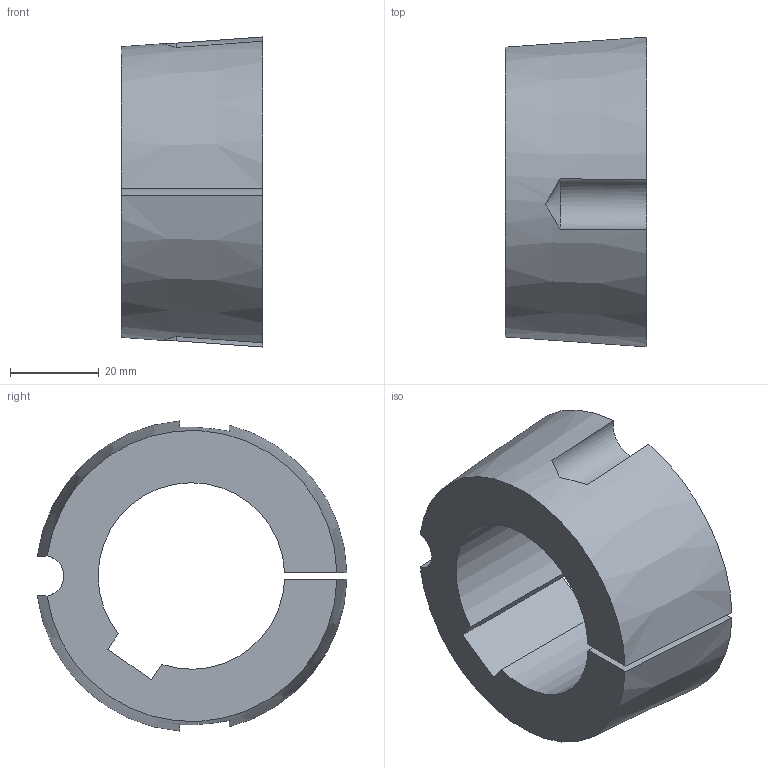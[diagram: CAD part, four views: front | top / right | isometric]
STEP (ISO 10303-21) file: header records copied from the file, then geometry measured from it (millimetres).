
FILE_DESCRIPTION( ( 'STEP AP203' ), '1' );
FILE_NAME( 'D:/export/antriebselemente/spannbuchsen_und_spannsaetze/taper-spannbuchsen_1008_bis_5050/taper-spannbuchsen_62250542Isometric_130.stp', '2018-12-11T11:11:14', ( '' ), ( '' ), ' ', 'PARTsolutions', ' ' );
FILE_SCHEMA( ( 'CONFIG_CONTROL_DESIGN' ) );
Length unit declared in the file: millimetre
Products named in the file (1): _taper-spannbuchsen_62250542
Bounding box: 31.8 x 69.72 x 69.81 mm (x, y, z)
Volume: 65134.5 mm3; surface area: 16632.4 mm2
Topology: 1 solids, 1 shells, 16 faces, 42 edges, 28 vertices
Faces by surface type: plane 7, cylinder 5, cone 4
Entity records: 618 total; most frequent: CARTESIAN_POINT 179, ORIENTED_EDGE 84, DIRECTION 82, EDGE_CURVE 42, AXIS2_PLACEMENT_3D 33, VERTEX_POINT 28, ADVANCED_FACE 16, FACE_OUTER_BOUND 16
